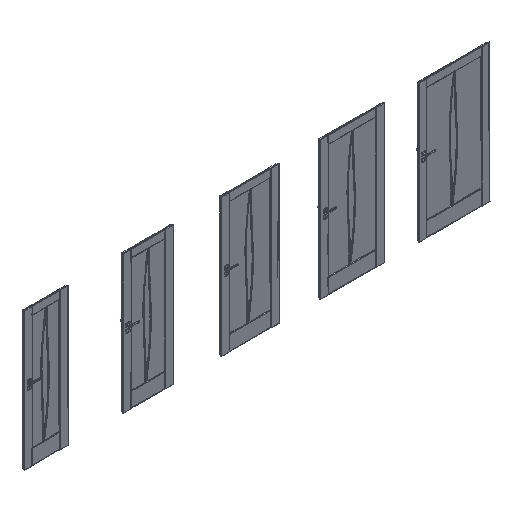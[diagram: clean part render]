
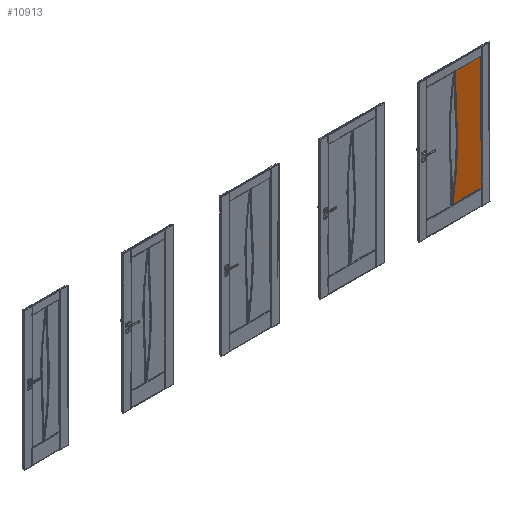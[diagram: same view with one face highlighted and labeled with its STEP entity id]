
A CAD part, isometric view. The second image highlights one B-rep face of the part: STEP entity #10913.
In plain terms, the highlighted planar face has unit normal (0, -1, 0).
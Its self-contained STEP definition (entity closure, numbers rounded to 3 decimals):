
#7352=CIRCLE('',#70453,4352.5);
#7633=CIRCLE('',#70951,3947.5);
#7635=CIRCLE('',#70954,5537.5);
#7636=CIRCLE('',#70956,295.);
#10913=ADVANCED_FACE('',(#16135),#13249,.T.);
#13249=PLANE('',#70958);
#16135=FACE_OUTER_BOUND('',#19671,.T.);
#19671=EDGE_LOOP('',(#34782,#34783,#34784,#34785,#34786,#34787,#34788,#34789,
#34790,#34791,#34792));
#34782=ORIENTED_EDGE('',*,*,#53565,.T.);
#34783=ORIENTED_EDGE('',*,*,#53566,.T.);
#34784=ORIENTED_EDGE('',*,*,#53567,.F.);
#34785=ORIENTED_EDGE('',*,*,#52886,.T.);
#34786=ORIENTED_EDGE('',*,*,#53561,.T.);
#34787=ORIENTED_EDGE('',*,*,#53563,.T.);
#34788=ORIENTED_EDGE('',*,*,#53564,.T.);
#34789=ORIENTED_EDGE('',*,*,#53281,.T.);
#34790=ORIENTED_EDGE('',*,*,#53568,.T.);
#34791=ORIENTED_EDGE('',*,*,#53569,.T.);
#34792=ORIENTED_EDGE('',*,*,#53570,.F.);
#44493=VERTEX_POINT('',#110472);
#44495=VERTEX_POINT('',#110476);
#44804=VERTEX_POINT('',#111548);
#44805=VERTEX_POINT('',#111550);
#44950=VERTEX_POINT('',#112491);
#44951=VERTEX_POINT('',#112495);
#44952=VERTEX_POINT('',#112501);
#44953=VERTEX_POINT('',#112502);
#44954=VERTEX_POINT('',#112504);
#44955=VERTEX_POINT('',#112507);
#44956=VERTEX_POINT('',#112509);
#52886=EDGE_CURVE('',#44493,#44495,#7352,.T.);
#53281=EDGE_CURVE('',#44805,#44804,#59371,.T.);
#53561=EDGE_CURVE('',#44495,#44950,#7633,.T.);
#53563=EDGE_CURVE('',#44950,#44951,#7635,.T.);
#53564=EDGE_CURVE('',#44951,#44805,#7636,.T.);
#53565=EDGE_CURVE('',#44952,#44953,#59473,.T.);
#53566=EDGE_CURVE('',#44953,#44954,#59474,.T.);
#53567=EDGE_CURVE('',#44493,#44954,#59475,.T.);
#53568=EDGE_CURVE('',#44804,#44955,#59476,.T.);
#53569=EDGE_CURVE('',#44955,#44956,#59477,.T.);
#53570=EDGE_CURVE('',#44952,#44956,#59478,.T.);
#59371=LINE('',#111549,#64026);
#59473=LINE('',#112500,#64128);
#59474=LINE('',#112503,#64129);
#59475=LINE('',#112505,#64130);
#59476=LINE('',#112506,#64131);
#59477=LINE('',#112508,#64132);
#59478=LINE('',#112510,#64133);
#64026=VECTOR('',#86562,1.);
#64128=VECTOR('',#87218,1.);
#64129=VECTOR('',#87219,1.);
#64130=VECTOR('',#87220,1.);
#64131=VECTOR('',#87221,1.);
#64132=VECTOR('',#87222,1.);
#64133=VECTOR('',#87223,1.);
#70453=AXIS2_PLACEMENT_3D('',#110477,#85897,#85898);
#70951=AXIS2_PLACEMENT_3D('',#112492,#87204,#87205);
#70954=AXIS2_PLACEMENT_3D('',#112496,#87210,#87211);
#70956=AXIS2_PLACEMENT_3D('',#112498,#87214,#87215);
#70958=AXIS2_PLACEMENT_3D('',#112511,#87224,#87225);
#85897=DIRECTION('',(0.,-1.,0.));
#85898=DIRECTION('',(0.,0.,-1.));
#86562=DIRECTION('',(1.,0.,0.));
#87204=DIRECTION('',(0.,1.,0.));
#87205=DIRECTION('',(0.,0.,-1.));
#87210=DIRECTION('',(0.,1.,0.));
#87211=DIRECTION('',(0.,0.,-1.));
#87214=DIRECTION('',(0.,-1.,0.));
#87215=DIRECTION('',(0.,0.,-1.));
#87218=DIRECTION('',(-1.,0.,0.));
#87219=DIRECTION('',(0.,0.,-1.));
#87220=DIRECTION('',(1.,0.,0.));
#87221=DIRECTION('',(0.,0.,-1.));
#87222=DIRECTION('',(1.,0.,0.));
#87223=DIRECTION('',(0.,0.,-1.));
#87224=DIRECTION('',(0.,-1.,0.));
#87225=DIRECTION('',(0.,0.,-1.));
#110472=CARTESIAN_POINT('',(6026.62,-26.15,1912.));
#110476=CARTESIAN_POINT('',(6038.93,-26.15,1353.556));
#110477=CARTESIAN_POINT('',(10375.25,-26.15,1728.5));
#111548=CARTESIAN_POINT('',(6403.5,-26.15,220.));
#111549=CARTESIAN_POINT('',(10375.25,-26.15,220.));
#111550=CARTESIAN_POINT('',(5986.57,-26.15,220.));
#112491=CARTESIAN_POINT('',(6047.276,-26.15,790.057));
#112492=CARTESIAN_POINT('',(2106.105,-26.15,1013.5));
#112495=CARTESIAN_POINT('',(5989.541,-26.15,247.169));
#112496=CARTESIAN_POINT('',(518.654,-26.15,1103.5));
#112498=CARTESIAN_POINT('',(6280.992,-26.15,201.55));
#112500=CARTESIAN_POINT('',(10575.25,-26.15,1918.5));
#112501=CARTESIAN_POINT('',(6404.,-26.15,1918.5));
#112502=CARTESIAN_POINT('',(6403.5,-26.15,1918.5));
#112503=CARTESIAN_POINT('',(6403.5,-26.15,1912.));
#112504=CARTESIAN_POINT('',(6403.5,-26.15,1912.));
#112505=CARTESIAN_POINT('',(4965.,-26.15,1912.));
#112506=CARTESIAN_POINT('',(6403.5,-26.15,1728.5));
#112507=CARTESIAN_POINT('',(6403.5,-26.15,206.5));
#112508=CARTESIAN_POINT('',(10575.25,-26.15,206.5));
#112509=CARTESIAN_POINT('',(6404.,-26.15,206.5));
#112510=CARTESIAN_POINT('',(6404.,-26.15,1728.5));
#112511=CARTESIAN_POINT('',(10375.25,-26.15,1728.5));
